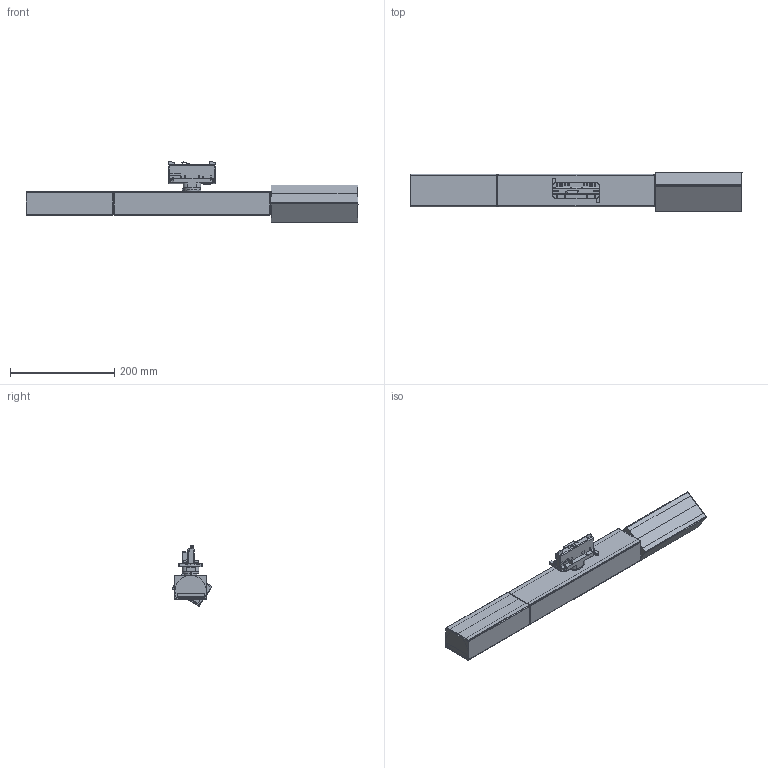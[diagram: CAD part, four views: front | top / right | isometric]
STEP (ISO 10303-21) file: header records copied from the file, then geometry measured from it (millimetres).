
FILE_DESCRIPTION(/* description */ (''),/* implementation_level */ '2;1');
FILE_NAME(/* name */ 'TEER_TRACK_DTE6.stp',/* time_stamp */ '2025-09-17T12:28:36+02:00',/* author */ ('gian.noche'),/* organization */ (''),/* preprocessor_version */ 'ST-DEVELOPER v19.2',/* originating_system */ 'Autodesk Inventor 2023',/* authorisation */ '');
FILE_SCHEMA (('AUTOMOTIVE_DESIGN { 1 0 10303 214 3 1 1 }'));
Products named in the file (1): IDP_111_MUSE_KIT_BIN_Semplifica_1
Bounding box: 636 x 75.54 x 116.15 mm (x, y, z)
Volume: 812555.4 mm3; surface area: 410715.2 mm2
Topology: 1 solids, 5 shells, 2969 faces, 8974 edges, 5897 vertices
Faces by surface type: plane 2800, cylinder 152, bspline 8, cone 6, torus 3
Full cylindrical faces by diameter (mm): 4.4 x3, 4.5 x3, 15 x4, 23.319 x1, 49.8 x12
Entity records: 99199 total; most frequent: CARTESIAN_POINT 18151, ORIENTED_EDGE 17948, DIRECTION 15366, EDGE_CURVE 8974, LINE 8450, VECTOR 8450, VERTEX_POINT 5897, AXIS2_PLACEMENT_3D 3458
